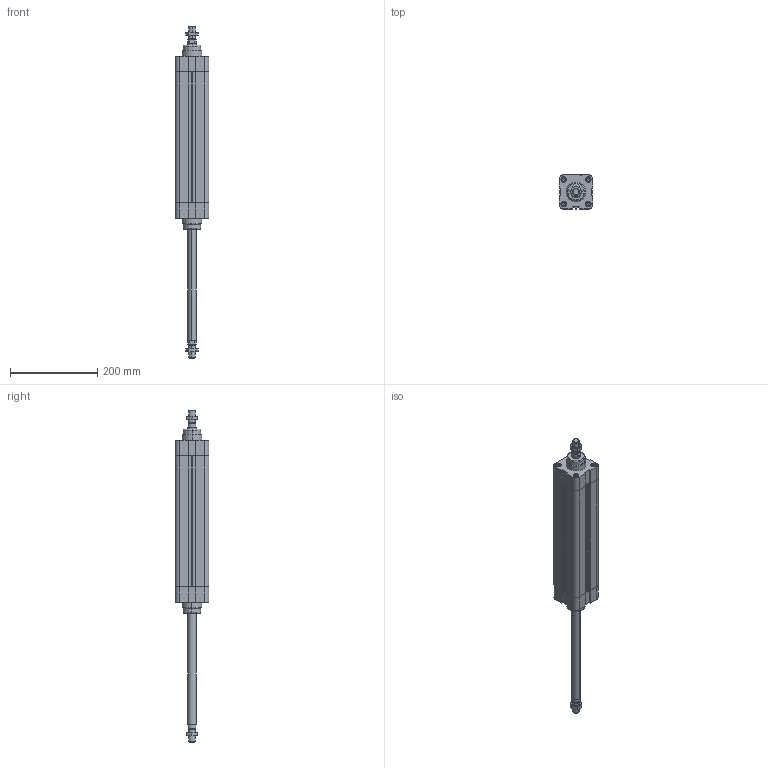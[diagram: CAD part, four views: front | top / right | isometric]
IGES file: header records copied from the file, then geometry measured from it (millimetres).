
Global section: file name: No Iges File Name specified; native system: Autodesk Inventor 2010; preprocessor: AutoDesk Inventor Iges Exporter R2010; author: rivolro1; date: 20090707.105807; units: millimetre
Bounding box: 77.5 x 77.5 x 759 mm (x, y, z)
Volume: 1589821.1 mm3; surface area: 303593.9 mm2
Topology: 6 solids, 6 shells, 343 faces, 810 edges, 508 vertices
Faces by surface type: plane 137, bspline 86, cylinder 58, cone 38, revolution 20, torus 4
